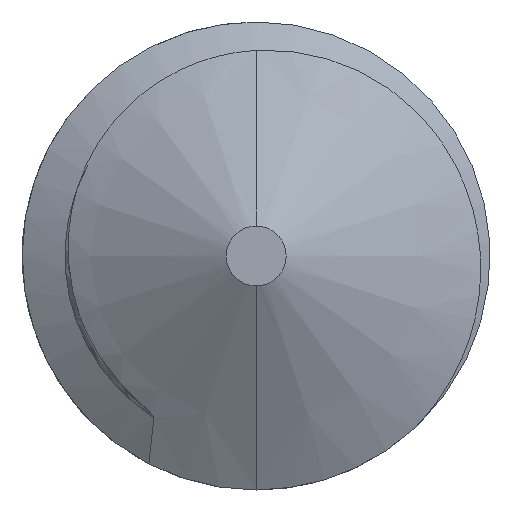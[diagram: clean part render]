
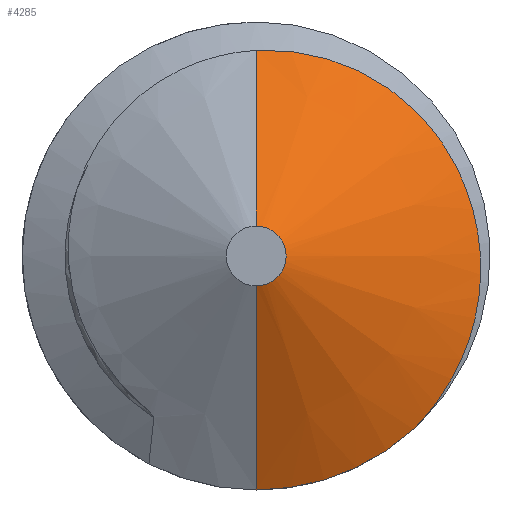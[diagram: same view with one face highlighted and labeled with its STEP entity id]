
A CAD part, front view. The second image highlights one B-rep face of the part: STEP entity #4285.
In plain terms, the highlighted conical face has half-angle 61.25 degrees and reference radius 0.25 mm.
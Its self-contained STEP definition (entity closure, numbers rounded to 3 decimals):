
#54 = CARTESIAN_POINT ( 'NONE',  ( 0., 0., -0.25 ) ) ;
#231 = CARTESIAN_POINT ( 'NONE',  ( 0., 0., 0. ) ) ;
#234 = CARTESIAN_POINT ( 'NONE',  ( 0., 0., 0.25 ) ) ;
#437 = DIRECTION ( 'NONE',  ( 0., 0., 1. ) ) ;
#627 = CARTESIAN_POINT ( 'NONE',  ( 1.314, 0.935, -1.446 ) ) ;
#749 = VERTEX_POINT ( 'NONE', #627 ) ;
#899 = DIRECTION ( 'NONE',  ( 0., 0., -1. ) ) ;
#1036 = CARTESIAN_POINT ( 'NONE',  ( 0., 0.935, 0. ) ) ;
#1074 = CARTESIAN_POINT ( 'NONE',  ( 0.742, 0.828, 1.636 ) ) ;
#1209 = CIRCLE ( 'NONE', #5704, 0.25 ) ;
#1254 = EDGE_CURVE ( 'NONE', #2265, #749, #1464, .T. ) ;
#1328 = DIRECTION ( 'NONE',  ( 0., 0.481, -0.877 ) ) ;
#1464 = B_SPLINE_CURVE_WITH_KNOTS ( 'NONE', 3,
 ( #3508, #7611, #1074, #2156, #6526, #5280, #3959, #1561, #7086, #7011, #3361, #3994, #2719, #2270, #5842, #7687 ),
 .UNSPECIFIED., .F., .F.,
 ( 4, 2, 2, 2, 2, 2, 2, 4 ),
 ( 0.002, 0.003, 0.004, 0.004, 0.005, 0.005, 0.006, 0.006 ),
 .UNSPECIFIED. ) ;
#1509 = DIRECTION ( 'NONE',  ( 0., -1., 0. ) ) ;
#1561 = CARTESIAN_POINT ( 'NONE',  ( 1.808, 0.877, 0.425 ) ) ;
#1584 = CIRCLE ( 'NONE', #4644, 1.954 ) ;
#1760 = EDGE_CURVE ( 'NONE', #749, #4300, #1584, .T. ) ;
#1988 = CARTESIAN_POINT ( 'NONE',  ( 0., 0., 0. ) ) ;
#2156 = CARTESIAN_POINT ( 'NONE',  ( 1.205, 0.845, 1.337 ) ) ;
#2265 = VERTEX_POINT ( 'NONE', #5079 ) ;
#2270 = CARTESIAN_POINT ( 'NONE',  ( 1.554, 0.925, -1.167 ) ) ;
#2719 = CARTESIAN_POINT ( 'NONE',  ( 1.732, 0.915, -0.845 ) ) ;
#2883 = CARTESIAN_POINT ( 'NONE',  ( 0., 0., 0.25 ) ) ;
#2977 = VECTOR ( 'NONE', #1328, 1000. ) ;
#3190 = ORIENTED_EDGE ( 'NONE', *, *, #6799, .T. ) ;
#3361 = CARTESIAN_POINT ( 'NONE',  ( 1.873, 0.899, -0.311 ) ) ;
#3472 = DIRECTION ( 'NONE',  ( 0., 1., 0. ) ) ;
#3508 = CARTESIAN_POINT ( 'NONE',  ( 0., 0.805, 1.717 ) ) ;
#3959 = CARTESIAN_POINT ( 'NONE',  ( 1.671, 0.866, 0.765 ) ) ;
#3974 = CARTESIAN_POINT ( 'NONE',  ( 0., 0., -0.25 ) ) ;
#3994 = CARTESIAN_POINT ( 'NONE',  ( 1.797, 0.91, -0.67 ) ) ;
#4146 = CONICAL_SURFACE ( 'NONE', #5410, 0.25, 1.069 ) ;
#4285 = ADVANCED_FACE ( 'NONE', ( #6751 ), #4146, .T. ) ;
#4300 = VERTEX_POINT ( 'NONE', #6874 ) ;
#4594 = ORIENTED_EDGE ( 'NONE', *, *, #1254, .F. ) ;
#4644 = AXIS2_PLACEMENT_3D ( 'NONE', #1036, #3472, #437 ) ;
#4846 = LINE ( 'NONE', #54, #2977 ) ;
#5032 = VERTEX_POINT ( 'NONE', #3974 ) ;
#5079 = CARTESIAN_POINT ( 'NONE',  ( 0., 0.805, 1.717 ) ) ;
#5280 = CARTESIAN_POINT ( 'NONE',  ( 1.577, 0.861, 0.928 ) ) ;
#5410 = AXIS2_PLACEMENT_3D ( 'NONE', #231, #6792, #5671 ) ;
#5671 = DIRECTION ( 'NONE',  ( 0., 0., 1. ) ) ;
#5704 = AXIS2_PLACEMENT_3D ( 'NONE', #1988, #1509, #899 ) ;
#5762 = ORIENTED_EDGE ( 'NONE', *, *, #5859, .F. ) ;
#5842 = CARTESIAN_POINT ( 'NONE',  ( 1.445, 0.93, -1.314 ) ) ;
#5859 = EDGE_CURVE ( 'NONE', #7795, #2265, #7742, .T. ) ;
#5866 = ORIENTED_EDGE ( 'NONE', *, *, #7380, .F. ) ;
#6526 = CARTESIAN_POINT ( 'NONE',  ( 1.345, 0.851, 1.212 ) ) ;
#6598 = EDGE_LOOP ( 'NONE', ( #5866, #3190, #7436, #4594, #5762 ) ) ;
#6751 = FACE_OUTER_BOUND ( 'NONE', #6598, .T. ) ;
#6792 = DIRECTION ( 'NONE',  ( 0., 1., 0. ) ) ;
#6799 = EDGE_CURVE ( 'NONE', #5032, #4300, #4846, .T. ) ;
#6874 = CARTESIAN_POINT ( 'NONE',  ( 0., 0.935, -1.954 ) ) ;
#7011 = CARTESIAN_POINT ( 'NONE',  ( 1.884, 0.894, -0.123 ) ) ;
#7086 = CARTESIAN_POINT ( 'NONE',  ( 1.852, 0.883, 0.242 ) ) ;
#7218 = DIRECTION ( 'NONE',  ( 0., 0.481, 0.877 ) ) ;
#7380 = EDGE_CURVE ( 'NONE', #5032, #7795, #1209, .T. ) ;
#7436 = ORIENTED_EDGE ( 'NONE', *, *, #1760, .F. ) ;
#7489 = VECTOR ( 'NONE', #7218, 1000. ) ;
#7611 = CARTESIAN_POINT ( 'NONE',  ( 0.368, 0.815, 1.736 ) ) ;
#7687 = CARTESIAN_POINT ( 'NONE',  ( 1.314, 0.935, -1.446 ) ) ;
#7742 = LINE ( 'NONE', #2883, #7489 ) ;
#7795 = VERTEX_POINT ( 'NONE', #234 ) ;
